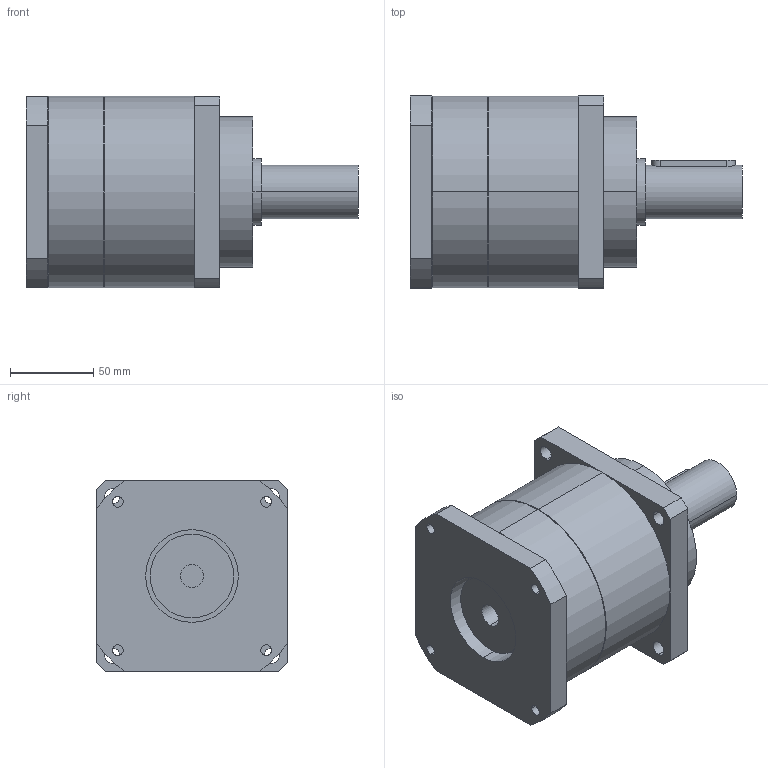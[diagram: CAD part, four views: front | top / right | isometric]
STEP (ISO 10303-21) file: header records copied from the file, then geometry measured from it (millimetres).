
FILE_DESCRIPTION(('CoCreate Modeling STEP Export'),'2;1');
FILE_NAME('GPT120_ig-3-4-5-7-10_32_B5A_14_P01.stp','2015-02-04T16:07:10',(''),(''),'CoCreate Modeling STEP processor for AP214 (Solid Model)','CoCreate Modeling 16.00C 25-Feb-2009 (C) Parametric Technology GmbH','');
FILE_SCHEMA(('AUTOMOTIVE_DESIGN { 1 0 10303 214 1 1 1 1 }'));
Length unit declared in the file: millimetre
Products named in the file (2): GPT120_ig-3-4-5-7-10_32_B5A_14_P01
Assembly tree (1 placements, depth 2):
  GPT120_ig-3-4-5-7-10_32_B5A_14_P01
    GPT120_ig-3-4-5-7-10_32_B5A_14_P01
Bounding box: 199 x 115 x 115 mm (x, y, z)
Volume: 1427565.2 mm3; surface area: 95424.7 mm2
Topology: 1 solids, 1 shells, 74 faces, 199 edges, 136 vertices
Faces by surface type: cylinder 44, plane 26, cone 4
Entity records: 2508 total; most frequent: CARTESIAN_POINT 750, ORIENTED_EDGE 398, DIRECTION 310, EDGE_CURVE 199, VERTEX_POINT 136, AXIS2_PLACEMENT_3D 114, EDGE_LOOP 99, VECTOR 82
